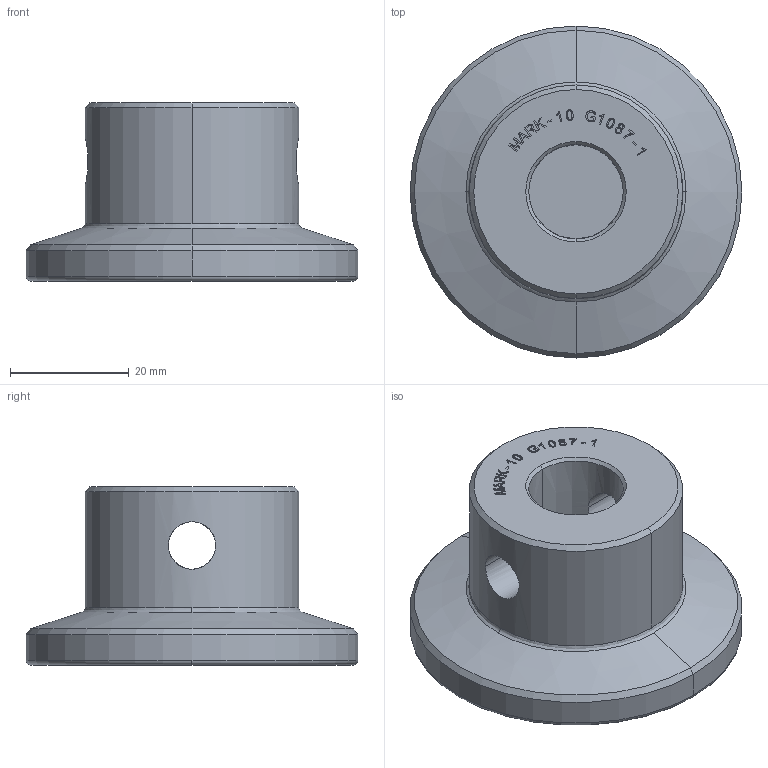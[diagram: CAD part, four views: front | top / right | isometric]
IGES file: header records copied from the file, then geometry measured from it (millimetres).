
Global section: file name: No Iges File Name specified; native system: Autodesk Inventor 2010; preprocessor: AutoDesk Inventor Iges Exporter R2010; author: mlampen; date: 20170420.121658; units: inch
Bounding box: 55.88 x 55.88 x 29.97 mm (x, y, z)
Volume: 35418.4 mm3; surface area: 9731.8 mm2
Topology: 1 solids, 1 shells, 704 faces, 2026 edges, 1347 vertices
Faces by surface type: plane 674, revolution 12, cylinder 8, cone 6, bspline 2, torus 2
